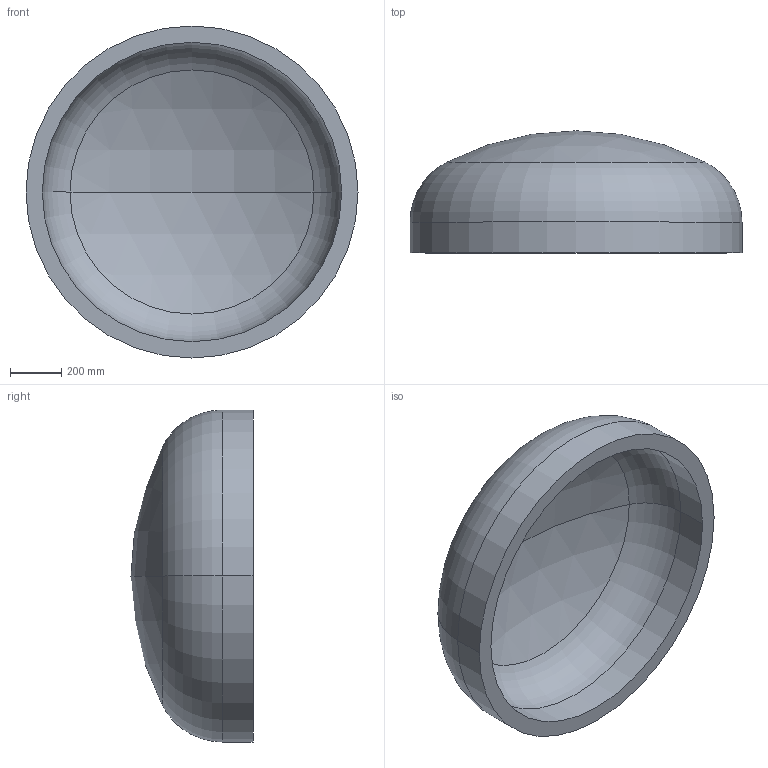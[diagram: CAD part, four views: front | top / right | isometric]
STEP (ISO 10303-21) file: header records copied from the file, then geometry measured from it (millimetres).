
FILE_DESCRIPTION (( 'STEP AP203' ), '1' );
FILE_NAME ('DIN 28013 Korbbogenform_-_Boden DIN 28013 - 1300 x 120 - I - s=64.step', '2016-07-01T09:56:42', ( '' ), ( '' ), 'SwSTEP 2.0', 'SolidWorks 2013', '' );
FILE_SCHEMA (( 'CONFIG_CONTROL_DESIGN' ));
Length unit declared in the file: millimetre
Products named in the file (1): DIN 28013 Korbbogenform_-_Boden DIN 28013 - 1300 x 120 - I - s=64
Bounding box: 1300 x 477.94 x 1300 mm (x, y, z)
Volume: 140234611.6 mm3; surface area: 4639421.7 mm2
Topology: 1 solids, 1 shells, 13 faces, 24 edges, 14 vertices
Faces by surface type: torus 4, cylinder 4, sphere 4, plane 1
Entity records: 407 total; most frequent: DIRECTION 72, CARTESIAN_POINT 52, ORIENTED_EDGE 48, AXIS2_PLACEMENT_3D 34, EDGE_CURVE 24, CIRCLE 20, EDGE_LOOP 14, VERTEX_POINT 14
